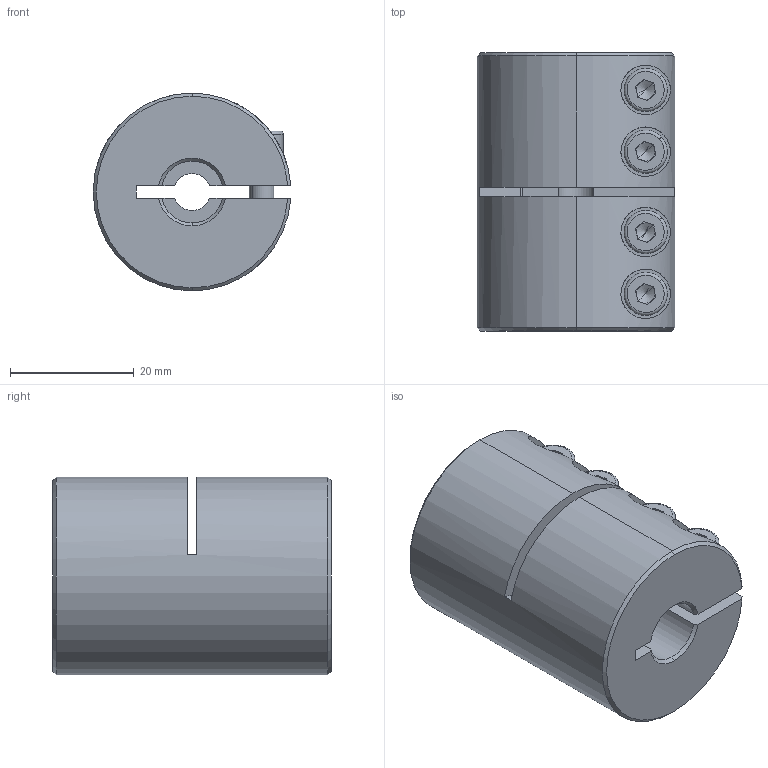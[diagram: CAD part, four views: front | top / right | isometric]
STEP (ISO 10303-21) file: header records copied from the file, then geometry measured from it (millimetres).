
FILE_DESCRIPTION (( 'STEP AP214' ), '1' );
FILE_NAME ('LL-B-D32L45-6-10½¨Ä£.STEP', '2022-07-21T06:43:30', ( '' ), ( '' ), 'SwSTEP 2.0', 'SolidWorks 2022', '' );
FILE_SCHEMA (( 'AUTOMOTIVE_DESIGN' ));
Length unit declared in the file: millimetre
Products named in the file (1): LL-B-D32L45-6-10膘耀
Bounding box: 31.97 x 45 x 32 mm (x, y, z)
Volume: 31091.6 mm3; surface area: 10773.7 mm2
Topology: 1 solids, 1 shells, 193 faces, 492 edges, 309 vertices
Faces by surface type: plane 88, cylinder 77, cone 20, torus 8
Entity records: 6357 total; most frequent: CARTESIAN_POINT 1583, DIRECTION 1037, ORIENTED_EDGE 968, EDGE_CURVE 484, AXIS2_PLACEMENT_3D 403, VERTEX_POINT 309, VECTOR 231, LINE 231
